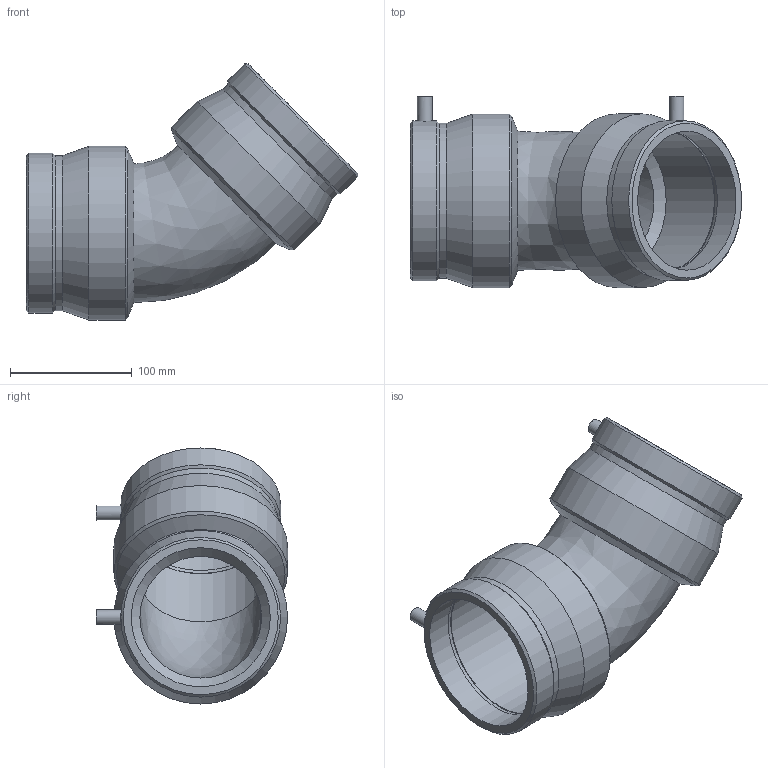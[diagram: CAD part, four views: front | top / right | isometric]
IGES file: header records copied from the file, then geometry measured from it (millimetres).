
Global section: file name: 5906B003040.ipt; native system: Autodesk Inventor 2019; preprocessor: unknown; author: KIM; date: 20210830.101021; units: inch
Bounding box: 271.78 x 156.84 x 210.16 mm (x, y, z)
Volume: 965295.6 mm3; surface area: 214104.1 mm2
Topology: 1 solids, 1 shells, 42 faces, 98 edges, 64 vertices
Faces by surface type: revolution 12, cone 10, cylinder 10, plane 10
Full cylindrical faces by diameter (mm): 4.8 x2, 12 x2, 127.162 x2, 131.094 x2, 142.494 x2
